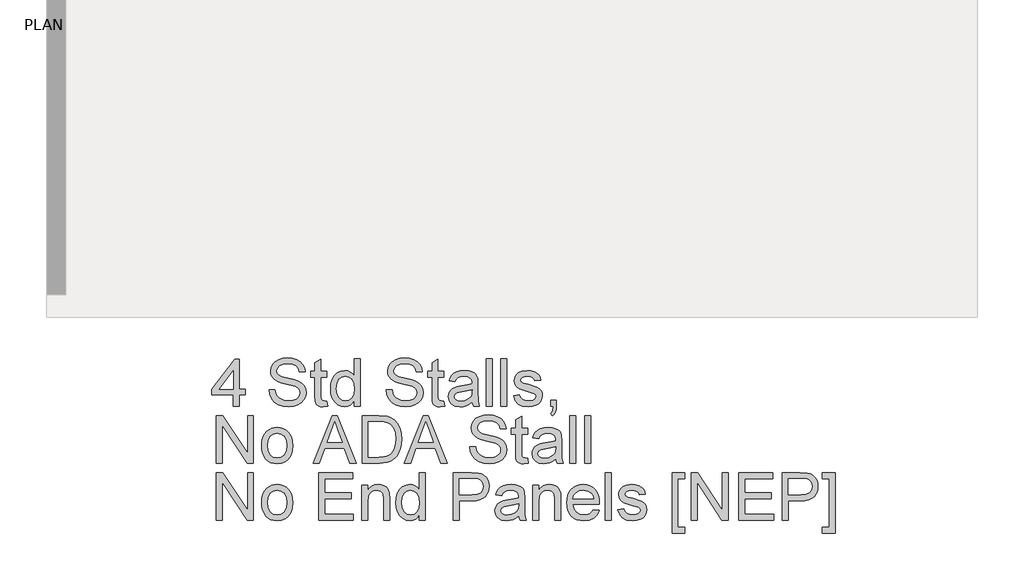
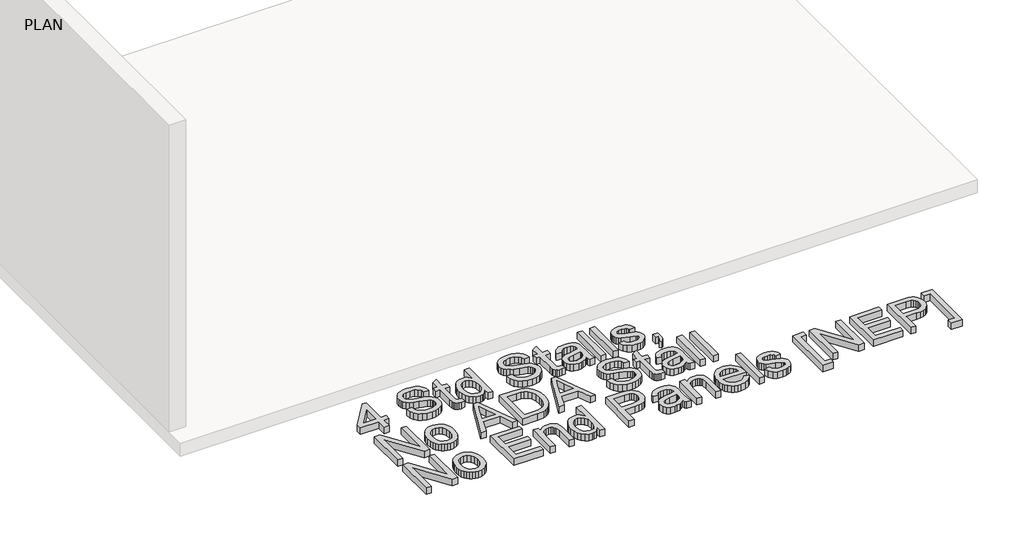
# One storey, part 7 of 21: 1 proxy.
"""IFC4 building model written with IfcOpenShell, lengths in millimetres."""

from ifc_helpers import new_model, si_unit, origin, origin_with_axes, place, context, project, spatial, polyline, outline, extrude, element, save

model = new_model("IFC4")

# Units and contexts
model_context = context("Model", 3, world=origin())
ifc_project = project(units=[si_unit("LENGTHUNIT", "METRE", prefix="MILLI")], contexts=[model_context])

# Site, building, storey
site = spatial("IfcSite", under=ifc_project)
building = spatial("IfcBuilding", under=site)
storey = spatial("IfcBuildingStorey", under=building, Name="PLAN", Elevation=0.0)

# Proxy
placement = place(None, origin())
element("IfcBuildingElementProxy", 1, Name="12\" Arial", ObjectType="12\" Arial", at=placement, inside=storey, context=model_context, shape_type="SweptSolid", body=[
    extrude(outline(polyline([(9809.5075559, -4821.3604361), (9809.5075559, -4749.9775235), (9671.5005914, -4749.9775235), (9671.5005914, -4711.9066367), (9819.0252776, -4521.5522029), (9847.5784427, -4521.5522029), (9847.5784427, -4711.9066367), (9885.6493294, -4711.9066367), (9885.6493294, -4749.9775235), (9847.5784427, -4749.9775235), (9847.5784427, -4821.3604361), (9809.5075559, -4821.3604361)]), holes=[polyline([(9809.5075559, -4711.9066367), (9809.5075559, -4594.2735452), (9718.3456279, -4711.9066367), (9809.5075559, -4711.9066367)])]), origin_with_axes(), (0.0, 0.0, 1.0), 50.8),
    extrude(outline(polyline([(10037.9328765, -4716.6654975), (10076.0037632, -4716.6654975), (10080.3722488, -4737.7922372), (10088.2727014, -4754.7735629), (10100.5974074, -4768.2508055), (10118.2386532, -4778.8652959), (10139.8022414, -4785.7526316), (10163.8939745, -4788.0484102), (10185.104366, -4786.3103106), (10203.6750768, -4781.0960119), (10218.7231153, -4772.8423627), (10229.3654897, -4761.9862114), (10235.6951464, -4749.5220856), (10237.805032, -4736.4445129), (10236.2249415, -4723.7015477), (10231.4846699, -4712.6873873), (10221.8554124, -4703.2904961), (10205.6083641, -4695.3993381), (10150.1750709, -4680.8625054), (10113.7865158, -4671.2425426), (10090.5034174, -4662.0873122), (10071.5516259, -4649.2792844), (10058.1208565, -4633.7572188), (10050.1181627, -4615.8557227), (10047.4505982, -4595.9094036), (10050.750199, -4573.611538), (10060.6490013, -4552.8194058), (10076.886755, -4535.1967492), (10099.2032099, -4522.4073107), (10125.9903914, -4514.6276886), (10155.6403252, -4512.0344812), (10187.7626359, -4514.748519), (10215.8696578, -4522.8906325), (10238.9575686, -4536.2935179), (10256.0225461, -4554.7898716), (10266.8229295, -4577.2271569), (10271.1170579, -4602.4528373), (10233.0461711, -4602.4528373), (10226.0565943, -4579.7367124), (10211.4825829, -4563.3409497), (10188.7106902, -4553.4142634), (10157.1274692, -4550.105368), (10124.8006762, -4553.3770848), (10102.6236411, -4563.1922353), (10089.797024, -4577.6361215), (10085.5214849, -4594.7940456), (10088.5515409, -4609.4238248), (10097.6417086, -4621.1908518), (10119.1309396, -4631.7123957), (10159.8043284, -4642.4570112), (10201.7789682, -4652.662537), (10227.1719523, -4661.5668118), (10248.8749602, -4675.3786618), (10264.0159452, -4692.4250501), (10272.9109253, -4712.5200836), (10275.8759187, -4735.4778693), (10272.4647821, -4758.9468608), (10262.2313724, -4781.0216547), (10245.5939487, -4800.0199195), (10222.9707704, -4814.2593235), (10195.7653296, -4823.1543036), (10165.3811185, -4826.119297), (10128.0816877, -4822.9219373), (10097.3814584, -4813.3298584), (10072.9272341, -4797.3058817), (10054.3658178, -4774.8128285), (10042.4500764, -4747.4122), (10037.9328765, -4716.6654975)])), origin_with_axes(), (0.0, 0.0, 1.0), 50.8),
    extrude(outline(polyline([(10409.1240224, -4789.6099114), (10413.8828832, -4822.4757941), (10385.4040754, -4826.119297), (10367.1307933, -4824.5392065), (10353.5048363, -4819.7989349), (10343.8755788, -4812.4933399), (10337.5923953, -4803.2172792), (10334.1347855, -4787.2862489), (10332.9822489, -4760.0157455), (10332.9822489, -4635.7648632), (10304.4290838, -4635.7648632), (10304.4290838, -4597.6939764), (10332.9822489, -4597.6939764), (10332.9822489, -4543.3388627), (10371.0531356, -4520.9573453), (10371.0531356, -4597.6939764), (10409.1240224, -4597.6939764), (10409.1240224, -4635.7648632), (10371.0531356, -4635.7648632), (10371.0531356, -4758.9003875), (10373.06078, -4778.5306885), (10379.5670351, -4785.4830868), (10392.5423666, -4788.0484102), (10409.1240224, -4789.6099114)])), origin_with_axes(), (0.0, 0.0, 1.0), 50.8),
    extrude(outline(polyline([(10585.2018736, -4821.3604361), (10585.2018736, -4785.4459082), (10573.81128, -4803.2405158), (10560.0133719, -4815.9509498), (10543.8081495, -4823.5772102), (10525.1956127, -4826.119297), (10500.5833792, -4822.4386155), (10478.0531474, -4811.3965712), (10458.9805254, -4793.76462), (10444.7411215, -4770.3142178), (10435.8740253, -4741.993419), (10432.9183266, -4709.7502779), (10435.6416591, -4677.9068067), (10443.8116565, -4649.1491593), (10457.4190242, -4625.1131942), (10476.4544676, -4607.4347697), (10499.4773159, -4596.5600291), (10525.0468983, -4592.9351156), (10543.673377, -4595.5283229), (10560.143497, -4603.3079451), (10574.1040614, -4615.2329811), (10585.2018736, -4630.2624303), (10585.2018736, -4516.7933421), (10623.2727604, -4516.7933421), (10623.2727604, -4821.3604361), (10585.2018736, -4821.3604361)]), holes=[polyline([(10470.9892134, -4709.6015635), (10475.2833417, -4744.038242), (10488.1657267, -4768.529645), (10506.885152, -4783.1687189), (10528.6904011, -4788.0484102), (10550.4863556, -4783.3917905), (10568.7317537, -4769.4219314), (10581.0843436, -4745.8785828), (10585.2018736, -4712.5014943), (10581.0099864, -4676.0106981), (10568.4343249, -4650.7106605), (10549.7241943, -4635.9321669), (10527.1288999, -4631.0060023), (10505.1005792, -4635.7369792), (10487.0503687, -4649.9299099), (10475.0045022, -4674.3097771), (10470.9892134, -4709.6015635)])]), origin_with_axes(), (0.0, 0.0, 1.0), 50.8),
    extrude(outline(polyline([(10789.83289, -4716.6654975), (10827.9037767, -4716.6654975), (10832.2722623, -4737.7922372), (10840.1727148, -4754.7735629), (10852.4974209, -4768.2508055), (10870.1386667, -4778.8652959), (10891.7022549, -4785.7526316), (10915.793988, -4788.0484102), (10937.0043795, -4786.3103106), (10955.5750903, -4781.0960119), (10970.6231288, -4772.8423627), (10981.2655032, -4761.9862114), (10987.5951599, -4749.5220856), (10989.7050454, -4736.4445129), (10988.1249549, -4723.7015477), (10983.3846834, -4712.6873873), (10973.7554259, -4703.2904961), (10957.5083775, -4695.3993381), (10902.0750844, -4680.8625054), (10865.6865293, -4671.2425426), (10842.4034309, -4662.0873122), (10823.4516393, -4649.2792844), (10810.02087, -4633.7572188), (10802.0181762, -4615.8557227), (10799.3506117, -4595.9094036), (10802.6502124, -4573.611538), (10812.5490148, -4552.8194058), (10828.7867685, -4535.1967492), (10851.1032233, -4522.4073107), (10877.8904049, -4514.6276886), (10907.5403387, -4512.0344812), (10939.6626494, -4514.748519), (10967.7696712, -4522.8906325), (10990.8575821, -4536.2935179), (11007.9225596, -4554.7898716), (11018.722943, -4577.2271569), (11023.0170714, -4602.4528373), (10984.9461846, -4602.4528373), (10977.9566077, -4579.7367124), (10963.3825964, -4563.3409497), (10940.6107037, -4553.4142634), (10909.0274827, -4550.105368), (10876.7006897, -4553.3770848), (10854.5236546, -4563.1922353), (10841.6970375, -4577.6361215), (10837.4214984, -4594.7940456), (10840.4515543, -4609.4238248), (10849.5417221, -4621.1908518), (10871.0309531, -4631.7123957), (10911.7043419, -4642.4570112), (10953.6789817, -4652.662537), (10979.0719657, -4661.5668118), (11000.7749737, -4675.3786618), (11015.9159587, -4692.4250501), (11024.8109388, -4712.5200836), (11027.7759322, -4735.4778693), (11024.3647956, -4758.9468608), (11014.1313859, -4781.0216547), (10997.4939622, -4800.0199195), (10974.8707839, -4814.2593235), (10947.6653431, -4823.1543036), (10917.281132, -4826.119297), (10879.9817012, -4822.9219373), (10849.2814719, -4813.3298584), (10824.8272475, -4797.3058817), (10806.2658313, -4774.8128285), (10794.3500899, -4747.4122), (10789.83289, -4716.6654975)])), origin_with_axes(), (0.0, 0.0, 1.0), 50.8),
    extrude(outline(polyline([(11161.0240359, -4789.6099114), (11165.7828967, -4822.4757941), (11137.3040888, -4826.119297), (11119.0308068, -4824.5392065), (11105.4048497, -4819.7989349), (11095.7755922, -4812.4933399), (11089.4924088, -4803.2172792), (11086.034799, -4787.2862489), (11084.8822623, -4760.0157455), (11084.8822623, -4635.7648632), (11056.3290973, -4635.7648632), (11056.3290973, -4597.6939764), (11084.8822623, -4597.6939764), (11084.8822623, -4543.3388627), (11122.9531491, -4520.9573453), (11122.9531491, -4597.6939764), (11161.0240359, -4597.6939764), (11161.0240359, -4635.7648632), (11122.9531491, -4635.7648632), (11122.9531491, -4758.9003875), (11124.9607935, -4778.5306885), (11131.4670486, -4785.4830868), (11144.4423801, -4788.0484102), (11161.0240359, -4789.6099114)])), origin_with_axes(), (0.0, 0.0, 1.0), 50.8),
    extrude(outline(polyline([(11341.860748, -4792.8072711), (11323.6711177, -4808.4036939), (11304.9423978, -4818.6092197), (11285.2470343, -4824.2417776), (11264.1574732, -4826.119297), (11232.341886, -4821.602097), (11208.8728945, -4808.0504972), (11194.4011243, -4787.4721419), (11189.5772009, -4761.8746756), (11191.3989523, -4746.0923597), (11196.8642066, -4731.7600093), (11205.2944542, -4719.4910712), (11216.0111858, -4709.8989923), (11242.6682422, -4697.4069826), (11275.6084821, -4691.6814781), (11314.5344767, -4685.6585448), (11341.6376764, -4678.5946108), (11341.860748, -4670.1178899), (11339.2396566, -4653.1272695), (11331.3763827, -4642.010868), (11313.7909047, -4633.7572188), (11289.2902071, -4631.0060023), (11266.6112609, -4632.8370484), (11250.7731771, -4638.3301866), (11239.9727937, -4648.4892391), (11232.4069485, -4664.3180282), (11194.3360618, -4659.5591674), (11200.944558, -4638.7391512), (11210.8061817, -4622.380567), (11224.8411034, -4609.869968), (11243.9694932, -4600.5939072), (11267.3641275, -4594.8498135), (11294.1977823, -4592.9351156), (11319.9346684, -4594.6267419), (11340.3364253, -4599.7016208), (11355.7190712, -4607.3325286), (11366.3986242, -4616.6922412), (11373.4811476, -4628.2640806), (11378.0727047, -4642.5313684), (11379.9316347, -4675.8433944), (11379.9316347, -4723.2089312), (11381.8649219, -4789.3496612), (11389.4493564, -4821.3604361), (11351.3784697, -4821.3604361), (11345.2811792, -4808.1248544), (11341.860748, -4792.8072711)]), holes=[polyline([(11341.860748, -4716.6654975), (11280.4417002, -4728.339578), (11247.6873533, -4734.5112257), (11232.8530917, -4744.5494478), (11227.6480877, -4759.1978163), (11230.482956, -4770.5187001), (11238.9875608, -4779.7947609), (11252.9760092, -4785.9849979), (11272.2624081, -4788.0484102), (11292.7106383, -4785.7712209), (11310.7794381, -4778.9396531), (11325.4278066, -4768.8735471), (11335.6147431, -4756.8927431), (11340.131943, -4744.5494478), (11341.6376764, -4727.4472916), (11341.860748, -4716.6654975)])]), origin_with_axes(), (0.0, 0.0, 1.0), 50.8),
    extrude(outline(polyline([(11432.279104, -4821.3604361), (11432.279104, -4516.7933421), (11470.3499908, -4516.7933421), (11470.3499908, -4821.3604361), (11432.279104, -4821.3604361)])), origin_with_axes(), (0.0, 0.0, 1.0), 50.8),
    extrude(outline(polyline([(11527.4563209, -4821.3604361), (11527.4563209, -4516.7933421), (11565.5272077, -4516.7933421), (11565.5272077, -4821.3604361), (11527.4563209, -4821.3604361)])), origin_with_axes(), (0.0, 0.0, 1.0), 50.8),
    extrude(outline(polyline([(11608.3569553, -4754.7363843), (11646.427842, -4749.9775235), (11652.432186, -4766.2617504), (11664.0504986, -4778.2332597), (11681.3571371, -4785.5946226), (11704.4264586, -4788.0484102), (11727.2169406, -4785.7991049), (11743.2409173, -4779.0511889), (11752.7214604, -4769.273217), (11755.8816415, -4757.9337439), (11752.7028711, -4748.2301292), (11743.1665601, -4740.8315878), (11703.9803154, -4729.9754365), (11646.6509136, -4711.3489577), (11632.1419648, -4701.989245), (11621.6297156, -4689.5994765), (11615.244291, -4674.9696972), (11613.1158161, -4658.8899526), (11614.8260317, -4644.1393429), (11619.9566786, -4630.5226805), (11628.0430242, -4618.5790552), (11638.620336, -4608.8475565), (11662.8236048, -4597.5824406), (11695.5779517, -4592.9351156), (11720.3574888, -4594.8033402), (11741.9024877, -4600.4080142), (11759.2277155, -4609.2007532), (11771.3479392, -4620.6331728), (11779.3785169, -4635.5510862), (11784.4348065, -4654.8003066), (11746.3639198, -4659.5591674), (11741.5585857, -4647.5783634), (11732.0501586, -4638.5532582), (11717.7456922, -4632.8928163), (11698.5522397, -4631.0060023), (11676.6912227, -4632.8091644), (11662.1172114, -4638.2186508), (11653.91933, -4646.0261569), (11651.1867029, -4655.0233782), (11655.7224921, -4666.1026011), (11669.9247175, -4674.5049647), (11702.716243, -4682.6098996), (11758.5956793, -4700.529985), (11773.3555836, -4709.0996524), (11784.5463423, -4720.8295008), (11791.6009817, -4735.7567088), (11793.9525282, -4753.9184551), (11791.1920171, -4772.6936483), (11782.9104839, -4790.3534834), (11769.4239466, -4805.5130577), (11751.0484234, -4816.7874683), (11728.852799, -4823.7863398), (11703.9059582, -4826.119297), (11665.5190533, -4821.6206863), (11637.5049779, -4808.1248544), (11618.804142, -4785.7805156), (11608.3569553, -4754.7363843)])), origin_with_axes(), (0.0, 0.0, 1.0), 50.8),
    extrude(outline(polyline([(11846.2999975, -4821.3604361), (11846.2999975, -4783.2895494), (11884.3708843, -4783.2895494), (11884.3708843, -4821.3604361), (11882.6606687, -4843.1378013), (11877.5300218, -4860.2864307), (11868.6815149, -4873.4383606), (11855.8177192, -4883.2256271), (11846.2999975, -4868.9490446), (11854.5536468, -4862.0524142), (11860.2791512, -4852.5161032), (11865.2610837, -4821.3604361), (11846.2999975, -4821.3604361)])), origin_with_axes(), (0.0, 0.0, 1.0), 50.8),
    extrude(outline(polyline([(9700.0537565, -5187.4131005), (9700.0537565, -4882.8460064), (9740.8015025, -4882.8460064), (9899.925912, -5124.1351227), (9899.925912, -4882.8460064), (9937.9967987, -4882.8460064), (9937.9967987, -5187.4131005), (9897.2490528, -5187.4131005), (9738.1246433, -4946.049627), (9738.1246433, -5187.4131005), (9700.0537565, -5187.4131005)])), origin_with_axes(), (0.0, 0.0, 1.0), 50.8),
    extrude(outline(polyline([(9990.344268, -5075.5798706), (9992.403033, -5046.6130936), (9998.579328, -5021.6523108), (10008.873153, -5000.6975222), (10023.2845079, -4983.7487277), (10037.7934567, -4972.9158131), (10053.8081388, -4965.1780169), (10071.3285542, -4960.5353392), (10090.354703, -4958.9877799), (10111.3582885, -4960.8722702), (10130.3495823, -4966.5257411), (10147.3285844, -4975.9481927), (10162.2952947, -4989.1396248), (10174.5107885, -5005.6538943), (10183.2361413, -5025.0448581), (10188.471353, -5047.312516), (10190.2164235, -5072.4568682), (10187.1305997, -5110.9181302), (10177.8731282, -5140.196278), (10162.7135539, -5162.1223576), (10141.9214217, -5178.527415), (10117.2255364, -5188.7608247), (10090.354703, -5192.1719613), (10069.044394, -5190.294442), (10049.8765018, -5184.661884), (10032.8510265, -5175.2742874), (10017.9679681, -5162.1316522), (10005.8825993, -5145.45705), (9997.2501931, -5125.4735523), (9992.0707493, -5102.1811592), (9990.344268, -5075.5798706)]), holes=[polyline([(10028.4151548, -5075.5055134), (10032.8208189, -5109.9607813), (10046.0378114, -5134.5079522), (10065.9283625, -5149.202794), (10090.354703, -5154.1010745), (10114.6695076, -5149.17491), (10134.5228802, -5134.3964164), (10147.7398726, -5109.5239327), (10152.1455368, -5074.3157982), (10147.7119887, -5040.8643525), (10134.4113444, -5016.6517891), (10114.5300879, -5001.9569473), (10090.354703, -4997.0586667), (10065.9283625, -5001.938358), (10046.0378114, -5016.5774319), (10032.8208189, -5041.0688348), (10028.4151548, -5075.5055134)])]), origin_with_axes(), (0.0, 0.0, 1.0), 50.8),
    extrude(outline(polyline([(10321.3081684, -5187.4131005), (10442.8821915, -4882.8460064), (10475.301931, -4882.8460064), (10596.8759541, -5187.4131005), (10556.6487086, -5187.4131005), (10521.7751814, -5092.2358836), (10396.3345839, -5092.2358836), (10361.5354139, -5187.4131005), (10321.3081684, -5187.4131005)]), holes=[polyline([(10410.3137376, -5054.1649968), (10507.8703849, -5054.1649968), (10480.4325779, -4979.2872957), (10459.0920613, -4920.9168932), (10440.1309751, -4972.743862), (10410.3137376, -5054.1649968)])]), origin_with_axes(), (0.0, 0.0, 1.0), 50.8),
    extrude(outline(polyline([(10637.5493429, -5187.4131005), (10637.5493429, -4882.8460064), (10742.6160675, -4882.8460064), (10796.9711812, -4887.2330812), (10821.2488073, -4895.6912128), (10841.7342161, -4909.019741), (10862.7958932, -4932.2191877), (10877.7974584, -4961.0697815), (10886.7760904, -4995.0138436), (10889.7689677, -5033.493695), (10887.742734, -5066.1829794), (10881.6640328, -5094.9499214), (10872.4065613, -5119.4413244), (10860.8440166, -5139.3039916), (10847.5340777, -5154.9840663), (10833.0344236, -5166.9276917), (10816.3877053, -5175.7854932), (10796.6365738, -5182.2080964), (10747.6723572, -5187.4131005), (10637.5493429, -5187.4131005)]), holes=[polyline([(10675.6202297, -5149.3422137), (10742.9878535, -5149.3422137), (10770.8532145, -5147.9666055), (10791.9892488, -5143.8397809), (10807.9388683, -5137.2034007), (10820.2449851, -5128.2991259), (10833.4712721, -5111.8197113), (10843.4072531, -5090.4884893), (10849.625374, -5064.2125136), (10851.6980809, -5032.8988374), (10847.6363189, -4991.4075194), (10835.4510326, -4960.7723527), (10817.4472954, -4939.7292649), (10795.9301804, -4927.0141836), (10774.0319848, -4922.4412158), (10741.9468527, -4920.9168932), (10675.6202297, -4920.9168932), (10675.6202297, -5149.3422137)])]), origin_with_axes(), (0.0, 0.0, 1.0), 50.8),
    extrude(outline(polyline([(10906.6480523, -5187.4131005), (11028.2220754, -4882.8460064), (11060.6418149, -4882.8460064), (11182.2158381, -5187.4131005), (11141.9885925, -5187.4131005), (11107.1150654, -5092.2358836), (10981.6744678, -5092.2358836), (10946.8752978, -5187.4131005), (10906.6480523, -5187.4131005)]), holes=[polyline([(10995.6536215, -5054.1649968), (11093.2102688, -5054.1649968), (11065.7724618, -4979.2872957), (11044.4319452, -4920.9168932), (11025.470859, -4972.743862), (10995.6536215, -5054.1649968)])]), origin_with_axes(), (0.0, 0.0, 1.0), 50.8),
    extrude(outline(polyline([(11327.5841654, -5082.7181619), (11365.6550522, -5082.7181619), (11370.0235377, -5103.8449015), (11377.9239903, -5120.8262272), (11390.2486963, -5134.3034699), (11407.8899422, -5144.9179603), (11429.4535304, -5151.805296), (11453.5452634, -5154.1010745), (11474.7556549, -5152.362975), (11493.3263658, -5147.1486763), (11508.3744043, -5138.895027), (11519.0167786, -5128.0388757), (11525.3464353, -5115.5747499), (11527.4563209, -5102.4971773), (11525.8762304, -5089.754212), (11521.1359589, -5078.7400516), (11511.5067014, -5069.3431604), (11495.259653, -5061.4520025), (11439.8263599, -5046.9151697), (11403.4378048, -5037.2952069), (11380.1547063, -5028.1399766), (11361.2029148, -5015.3319487), (11347.7721454, -4999.8098831), (11339.7694517, -4981.908387), (11337.1018871, -4961.9620679), (11340.4014879, -4939.6642024), (11350.3002902, -4918.8720701), (11366.5380439, -4901.2494136), (11388.8544988, -4888.459975), (11415.6416804, -4880.6803529), (11445.2916141, -4878.0871455), (11477.4139248, -4880.8011834), (11505.5209467, -4888.9432969), (11528.6088575, -4902.3461823), (11545.6738351, -4920.842536), (11556.4742185, -4943.2798213), (11560.7683468, -4968.5055016), (11522.6974601, -4968.5055016), (11515.7078832, -4945.7893768), (11501.1338719, -4929.393614), (11478.3619791, -4919.4669277), (11446.7787582, -4916.1580323), (11414.4519651, -4919.4297491), (11392.27493, -4929.2448996), (11379.4483129, -4943.6887859), (11375.1727739, -4960.8467099), (11378.2028298, -4975.4764892), (11387.2929976, -4987.2435162), (11408.7822286, -4997.7650601), (11449.4556174, -5008.5096756), (11491.4302572, -5018.7152014), (11516.8232412, -5027.6194762), (11538.5262492, -5041.4313262), (11553.6672342, -5058.4777144), (11562.5622143, -5078.5727479), (11565.5272077, -5101.5305337), (11562.1160711, -5124.9995251), (11551.8826613, -5147.0743191), (11535.2452377, -5166.0725839), (11512.6220594, -5180.3119878), (11485.4166186, -5189.2069679), (11455.0324074, -5192.1719613), (11417.7329766, -5188.9746017), (11387.0327474, -5179.3825228), (11362.578523, -5163.358546), (11344.0171068, -5140.8654928), (11332.1013654, -5113.4648644), (11327.5841654, -5082.7181619)])), origin_with_axes(), (0.0, 0.0, 1.0), 50.8),
    extrude(outline(polyline([(11698.7753113, -5155.6625758), (11703.5341722, -5188.5284585), (11675.0553643, -5192.1719613), (11656.7820822, -5190.5918708), (11643.1561252, -5185.8515992), (11633.5268677, -5178.5460043), (11627.2436843, -5169.2699435), (11623.7860744, -5153.3389132), (11622.6335378, -5126.0684099), (11622.6335378, -5001.8175275), (11594.0803727, -5001.8175275), (11594.0803727, -4963.7466408), (11622.6335378, -4963.7466408), (11622.6335378, -4909.391527), (11660.7044246, -4887.0100096), (11660.7044246, -4963.7466408), (11698.7753113, -4963.7466408), (11698.7753113, -5001.8175275), (11660.7044246, -5001.8175275), (11660.7044246, -5124.9530519), (11662.712069, -5144.5833529), (11669.218324, -5151.5357511), (11682.1936556, -5154.1010745), (11698.7753113, -5155.6625758)])), origin_with_axes(), (0.0, 0.0, 1.0), 50.8),
    extrude(outline(polyline([(11879.6120234, -5158.8599354), (11861.4223932, -5174.4563582), (11842.6936733, -5184.661884), (11822.9983097, -5190.294442), (11801.9087487, -5192.1719613), (11770.0931614, -5187.6547614), (11746.62417, -5174.1031615), (11732.1523998, -5153.5248062), (11727.3284764, -5127.9273399), (11729.1502278, -5112.1450241), (11734.6154821, -5097.8126736), (11743.0457297, -5085.5437355), (11753.7624612, -5075.9516566), (11780.4195177, -5063.4596469), (11813.3597576, -5057.7341424), (11852.2857522, -5051.7112092), (11879.3889518, -5044.6472751), (11879.6120234, -5036.1705542), (11876.9909321, -5019.1799339), (11869.1276581, -5008.0635324), (11851.5421802, -4999.8098831), (11827.0414825, -4997.0586667), (11804.3625363, -4998.8897127), (11788.5244526, -5004.3828509), (11777.7240692, -5014.5419035), (11770.158224, -5030.3706926), (11732.0873372, -5025.6118317), (11738.6958335, -5004.7918155), (11748.5574572, -4988.4332314), (11762.5923788, -4975.9226324), (11781.7207687, -4966.6465716), (11805.115403, -4960.9024778), (11831.9490578, -4958.9877799), (11857.6859439, -4960.6794062), (11878.0877008, -4965.7542852), (11893.4703467, -4973.3851929), (11904.1498997, -4982.7449055), (11911.232423, -4994.3167449), (11915.8239802, -5008.5840328), (11917.6829102, -5041.8960587), (11917.6829102, -5089.2615955), (11919.6161974, -5155.4023256), (11927.2006319, -5187.4131005), (11889.1297451, -5187.4131005), (11883.0324547, -5174.1775187), (11879.6120234, -5158.8599354)]), holes=[polyline([(11879.6120234, -5082.7181619), (11818.1929757, -5094.3922424), (11785.4386287, -5100.56389), (11770.6043672, -5110.6021121), (11765.3993632, -5125.2504807), (11768.2342314, -5136.5713645), (11776.7388363, -5145.8474253), (11790.7272846, -5152.0376622), (11810.0136836, -5154.1010745), (11830.4619138, -5151.8238853), (11848.5307135, -5144.9923175), (11863.1790821, -5134.9262114), (11873.3660186, -5122.9454075), (11877.8832185, -5110.6021121), (11879.3889518, -5093.499956), (11879.6120234, -5082.7181619)])]), origin_with_axes(), (0.0, 0.0, 1.0), 50.8),
    extrude(outline(polyline([(11970.0303795, -5187.4131005), (11970.0303795, -4882.8460064), (12008.1012662, -4882.8460064), (12008.1012662, -5187.4131005), (11970.0303795, -5187.4131005)])), origin_with_axes(), (0.0, 0.0, 1.0), 50.8),
    extrude(outline(polyline([(12065.2075964, -5187.4131005), (12065.2075964, -4882.8460064), (12103.2784831, -4882.8460064), (12103.2784831, -5187.4131005), (12065.2075964, -5187.4131005)])), origin_with_axes(), (0.0, 0.0, 1.0), 50.8),
    extrude(outline(polyline([(9700.0537565, -5553.4657648), (9700.0537565, -5248.8986707), (9740.8015025, -5248.8986707), (9899.925912, -5490.187787), (9899.925912, -5248.8986707), (9937.9967987, -5248.8986707), (9937.9967987, -5553.4657648), (9897.2490528, -5553.4657648), (9738.1246433, -5312.1022913), (9738.1246433, -5553.4657648), (9700.0537565, -5553.4657648)])), origin_with_axes(), (0.0, 0.0, 1.0), 50.8),
    extrude(outline(polyline([(9990.344268, -5441.6325349), (9992.403033, -5412.665758), (9998.579328, -5387.7049751), (10008.873153, -5366.7501865), (10023.2845079, -5349.8013921), (10037.7934567, -5338.9684774), (10053.8081388, -5331.2306812), (10071.3285542, -5326.5880035), (10090.354703, -5325.0404442), (10111.3582885, -5326.9249346), (10130.3495823, -5332.5784055), (10147.3285844, -5342.000857), (10162.2952947, -5355.1922891), (10174.5107885, -5371.7065587), (10183.2361413, -5391.0975224), (10188.471353, -5413.3651804), (10190.2164235, -5438.5095325), (10187.1305997, -5476.9707946), (10177.8731282, -5506.2489424), (10162.7135539, -5528.1750219), (10141.9214217, -5544.5800793), (10117.2255364, -5554.8134891), (10090.354703, -5558.2246256), (10069.044394, -5556.3471063), (10049.8765018, -5550.7145484), (10032.8510265, -5541.3269518), (10017.9679681, -5528.1843166), (10005.8825993, -5511.5097143), (9997.2501931, -5491.5262166), (9992.0707493, -5468.2338235), (9990.344268, -5441.6325349)]), holes=[polyline([(10028.4151548, -5441.5581777), (10032.8208189, -5476.0134456), (10046.0378114, -5500.5606165), (10065.9283625, -5515.2554583), (10090.354703, -5520.1537389), (10114.6695076, -5515.2275743), (10134.5228802, -5500.4490807), (10147.7398726, -5475.5765971), (10152.1455368, -5440.3684625), (10147.7119887, -5406.9170169), (10134.4113444, -5382.7044534), (10114.5300879, -5368.0096116), (10090.354703, -5363.111331), (10065.9283625, -5367.9910223), (10046.0378114, -5382.6300962), (10032.8208189, -5407.1214992), (10028.4151548, -5441.5581777)])]), origin_with_axes(), (0.0, 0.0, 1.0), 50.8),
    extrude(outline(polyline([(10356.7765531, -5553.4657648), (10356.7765531, -5248.8986707), (10575.6841519, -5248.8986707), (10575.6841519, -5286.9695575), (10394.8474398, -5286.9695575), (10394.8474398, -5377.3879135), (10566.1664303, -5377.3879135), (10566.1664303, -5415.4588003), (10394.8474398, -5415.4588003), (10394.8474398, -5515.394878), (10580.4430128, -5515.394878), (10580.4430128, -5553.4657648), (10356.7765531, -5553.4657648)])), origin_with_axes(), (0.0, 0.0, 1.0), 50.8),
    extrude(outline(polyline([(10632.7904821, -5553.4657648), (10632.7904821, -5329.7993051), (10670.8613688, -5329.7993051), (10670.8613688, -5361.0293294), (10684.0876559, -5345.2841921), (10699.9722129, -5334.0376655), (10718.5150398, -5327.2897496), (10739.7161367, -5325.0404442), (10758.4820352, -5326.852901), (10775.6678432, -5332.2902713), (10790.0001937, -5340.6740457), (10800.2057195, -5351.3257147), (10811.6195498, -5379.3212008), (10813.6271942, -5416.1280151), (10813.6271942, -5553.4657648), (10775.5563074, -5553.4657648), (10775.5563074, -5421.258662), (10771.1692326, -5387.57485), (10765.0998261, -5377.5459226), (10755.6657562, -5369.7663005), (10743.5734165, -5364.7750734), (10729.5292002, -5363.111331), (10707.2313346, -5366.8477803), (10688.2237752, -5378.0571283), (10680.6277224, -5387.2077114), (10675.2019704, -5399.7136631), (10670.8613688, -5434.7916725), (10670.8613688, -5553.4657648), (10632.7904821, -5553.4657648)])), origin_with_axes(), (0.0, 0.0, 1.0), 50.8),
    extrude(outline(polyline([(11003.981628, -5553.4657648), (11003.981628, -5517.5512369), (10992.5910343, -5535.3458445), (10978.7931262, -5548.0562785), (10962.5879038, -5555.6825388), (10943.975367, -5558.2246256), (10919.3631336, -5554.5439442), (10896.8329018, -5543.5018999), (10877.7602798, -5525.8699487), (10863.5208759, -5502.4195465), (10854.6537797, -5474.0987477), (10851.6980809, -5441.8556065), (10854.4214134, -5410.0121354), (10862.5914109, -5381.254488), (10876.1987786, -5357.2185229), (10895.234222, -5339.5400984), (10918.2570702, -5328.6653578), (10943.8266526, -5325.0404442), (10962.4531314, -5327.6336516), (10978.9232513, -5335.4132737), (10992.8838158, -5347.3383098), (11003.981628, -5362.367759), (11003.981628, -5248.8986707), (11042.0525147, -5248.8986707), (11042.0525147, -5553.4657648), (11003.981628, -5553.4657648)]), holes=[polyline([(10889.7689677, -5441.7068921), (10894.063096, -5476.1435707), (10906.9454811, -5500.6349737), (10925.6649063, -5515.2740476), (10947.4701554, -5520.1537389), (10969.2661099, -5515.4971192), (10987.511508, -5501.5272601), (10999.864098, -5477.9839114), (11003.981628, -5444.606823), (10999.7897408, -5408.1160267), (10987.2140792, -5382.8159892), (10968.5039486, -5368.0374956), (10945.9086542, -5363.111331), (10923.8803335, -5367.8423079), (10905.8301231, -5382.0352386), (10893.7842565, -5406.4151058), (10889.7689677, -5441.7068921)])]), origin_with_axes(), (0.0, 0.0, 1.0), 50.8),
    extrude(outline(polyline([(11222.8892268, -5553.4657648), (11222.8892268, -5248.8986707), (11335.7634575, -5248.8986707), (11381.2700643, -5251.7986016), (11401.5602855, -5257.2173826), (11418.2627717, -5266.0380055), (11431.7121304, -5278.6601403), (11442.2429689, -5295.483457), (11449.0466528, -5315.3275349), (11451.3145474, -5337.0119536), (11449.7832538, -5355.7081422), (11445.189373, -5372.9078922), (11437.532905, -5388.6112035), (11426.8138498, -5402.8180762), (11412.098095, -5414.5943978), (11392.4515284, -5423.0060562), (11367.8741499, -5428.0530512), (11338.3659595, -5429.7353828), (11260.9601136, -5429.7353828), (11260.9601136, -5553.4657648), (11222.8892268, -5553.4657648)]), holes=[polyline([(11260.9601136, -5391.6644961), (11340.5966756, -5391.6644961), (11374.3548447, -5388.1697076), (11396.6620049, -5377.6853423), (11409.0982467, -5360.8620257), (11413.2436606, -5338.3503832), (11410.7991677, -5321.248227), (11403.4656887, -5306.8229301), (11392.1540996, -5295.9667788), (11377.7752759, -5289.5720595), (11339.7043891, -5286.9695575), (11260.9601136, -5286.9695575), (11260.9601136, -5391.6644961)])]), origin_with_axes(), (0.0, 0.0, 1.0), 50.8),
    extrude(outline(polyline([(11641.6689812, -5524.9125997), (11623.479351, -5540.5090226), (11604.750631, -5550.7145484), (11585.0552675, -5556.3471063), (11563.9657065, -5558.2246256), (11532.1501192, -5553.7074257), (11508.6811277, -5540.1558259), (11494.2093575, -5519.5774706), (11489.3854342, -5493.9800042), (11491.2071856, -5478.1976884), (11496.6724398, -5463.865338), (11505.1026875, -5451.5963998), (11515.819419, -5442.004321), (11542.4764755, -5429.5123112), (11575.4167154, -5423.7868068), (11614.3427099, -5417.7638735), (11641.4459096, -5410.6999395), (11641.6689812, -5402.2232186), (11639.0478899, -5385.2325982), (11631.1846159, -5374.1161967), (11613.5991379, -5365.8625474), (11589.0984403, -5363.111331), (11566.4194941, -5364.9423771), (11550.5814103, -5370.4355153), (11539.7810269, -5380.5945678), (11532.2151818, -5396.4233569), (11494.144295, -5391.6644961), (11500.7527912, -5370.8444799), (11510.614415, -5354.4858957), (11524.6493366, -5341.9752967), (11543.7777265, -5332.6992359), (11567.1723607, -5326.9551422), (11594.0060155, -5325.0404442), (11619.7429016, -5326.7320706), (11640.1446586, -5331.8069495), (11655.5273045, -5339.4378572), (11666.2068574, -5348.7975699), (11673.2893808, -5360.3694092), (11677.8809379, -5374.6366971), (11679.7398679, -5407.948723), (11679.7398679, -5455.3142599), (11681.6731552, -5521.4549899), (11689.2575896, -5553.4657648), (11651.1867029, -5553.4657648), (11645.0894124, -5540.2301831), (11641.6689812, -5524.9125997)]), holes=[polyline([(11641.6689812, -5448.7708262), (11580.2499334, -5460.4449067), (11547.4955865, -5466.6165544), (11532.661325, -5476.6547765), (11527.4563209, -5491.303145), (11530.2911892, -5502.6240288), (11538.795794, -5511.9000896), (11552.7842424, -5518.0903266), (11572.0706413, -5520.1537389), (11592.5188715, -5517.8765496), (11610.5876713, -5511.0449818), (11625.2360398, -5500.9788758), (11635.4229763, -5488.9980718), (11639.9401763, -5476.6547765), (11641.4459096, -5459.5526203), (11641.6689812, -5448.7708262)])]), origin_with_axes(), (0.0, 0.0, 1.0), 50.8),
    extrude(outline(polyline([(11732.0873372, -5553.4657648), (11732.0873372, -5329.7993051), (11770.158224, -5329.7993051), (11770.158224, -5361.0293294), (11783.3845111, -5345.2841921), (11799.2690681, -5334.0376655), (11817.811895, -5327.2897496), (11839.0129918, -5325.0404442), (11857.7788904, -5326.852901), (11874.9646984, -5332.2902713), (11889.2970488, -5340.6740457), (11899.5025746, -5351.3257147), (11910.9164049, -5379.3212008), (11912.9240493, -5416.1280151), (11912.9240493, -5553.4657648), (11874.8531626, -5553.4657648), (11874.8531626, -5421.258662), (11870.4660877, -5387.57485), (11864.3966812, -5377.5459226), (11854.9626114, -5369.7663005), (11842.8702716, -5364.7750734), (11828.8260554, -5363.111331), (11806.5281898, -5366.8477803), (11787.5206304, -5378.0571283), (11779.9245776, -5387.2077114), (11774.4988256, -5399.7136631), (11770.158224, -5434.7916725), (11770.158224, -5553.4657648), (11732.0873372, -5553.4657648)])), origin_with_axes(), (0.0, 0.0, 1.0), 50.8),
    extrude(outline(polyline([(12121.8677833, -5486.841713), (12159.1950981, -5491.6005738), (12145.7457394, -5519.726185), (12124.2843923, -5540.7506835), (12095.2943787, -5553.8561401), (12059.2590203, -5558.2246256), (12035.6366671, -5556.3401353), (12014.588932, -5550.6866644), (11996.115815, -5541.2642129), (11980.217316, -5528.0727808), (11967.4325248, -5511.4795067), (11958.3005311, -5491.8515294), (11952.8213348, -5469.1888488), (11950.9949361, -5443.491465), (11952.8399241, -5416.9227077), (11958.3748883, -5393.5048368), (11967.5998285, -5373.2378523), (11980.5147448, -5356.1217541), (11996.3714178, -5342.5236811), (12014.4216283, -5332.8107717), (12034.6653762, -5326.9830261), (12057.1026615, -5325.0404442), (12078.8172878, -5326.9783788), (12098.4545597, -5332.7921824), (12116.0144774, -5342.4818551), (12131.4970408, -5356.0473969), (12144.1354413, -5373.1263165), (12153.1628702, -5393.3561224), (12158.5793275, -5416.7368147), (12160.3848133, -5443.2683934), (12160.1617417, -5453.5296871), (11989.0658229, -5453.5296871), (11995.6557298, -5482.0270842), (12010.9640185, -5502.9772255), (12033.0574017, -5515.8596105), (12060.0025923, -5520.1537389), (12080.2649295, -5518.1646838), (12097.3299071, -5512.1975184), (12111.197525, -5501.8804568), (12121.8677833, -5486.841713)]), holes=[polyline([(11989.0658229, -5415.4588003), (12122.3139265, -5415.4588003), (12117.1646904, -5395.3451775), (12107.0707004, -5380.9570592), (12084.875076, -5367.5727631), (12056.9539471, -5363.111331), (12031.2914182, -5366.671182), (12010.0717321, -5377.3507349), (11995.3211224, -5393.9974532), (11989.0658229, -5415.4588003)])]), origin_with_axes(), (0.0, 0.0, 1.0), 50.8),
    extrude(outline(polyline([(12198.4557, -5553.4657648), (12198.4557, -5248.8986707), (12236.5265868, -5248.8986707), (12236.5265868, -5553.4657648), (12198.4557, -5553.4657648)])), origin_with_axes(), (0.0, 0.0, 1.0), 50.8),
    extrude(outline(polyline([(12279.3563344, -5486.841713), (12317.4272212, -5482.0828521), (12323.4315651, -5498.3670791), (12335.0498777, -5510.3385884), (12352.3565162, -5517.6999513), (12375.4258377, -5520.1537389), (12398.2163197, -5517.9044336), (12414.2402965, -5511.1565176), (12423.7208396, -5501.3785457), (12426.8810206, -5490.0390726), (12423.7022503, -5480.3354579), (12414.1659393, -5472.9369164), (12374.9796945, -5462.0807651), (12317.6502928, -5443.4542864), (12303.141344, -5434.0945737), (12292.6290947, -5421.7048052), (12286.2436701, -5407.0750259), (12284.1151952, -5390.9952813), (12285.8254109, -5376.2446716), (12290.9560577, -5362.6280092), (12299.0424033, -5350.6843838), (12309.6197151, -5340.9528852), (12333.8229839, -5329.6877693), (12366.5773308, -5325.0404442), (12391.3568679, -5326.9086689), (12412.9018669, -5332.5133429), (12430.2270946, -5341.3060819), (12442.3473183, -5352.7385015), (12450.377896, -5367.6564149), (12455.4341857, -5386.9056352), (12417.3632989, -5391.6644961), (12412.5579648, -5379.6836921), (12403.0495378, -5370.6585869), (12388.7450713, -5364.998145), (12369.5516188, -5363.111331), (12347.6906018, -5364.9144931), (12333.1165905, -5370.3239795), (12324.9187091, -5378.1314855), (12322.186082, -5387.1287068), (12326.7218712, -5398.2079297), (12340.9240966, -5406.6102934), (12373.7156221, -5414.7152283), (12429.5950584, -5432.6353137), (12444.3549627, -5441.204981), (12455.5457215, -5452.9348295), (12462.6003609, -5467.8620375), (12464.9519073, -5486.0237838), (12462.1913963, -5504.7989769), (12453.909863, -5522.4588121), (12440.4233258, -5537.6183864), (12422.0478025, -5548.892797), (12399.8521781, -5555.8916685), (12374.9053373, -5558.2246256), (12336.5184324, -5553.726015), (12308.5043571, -5540.2301831), (12289.8035211, -5517.8858443), (12279.3563344, -5486.841713)])), origin_with_axes(), (0.0, 0.0, 1.0), 50.8),
    extrude(outline(polyline([(12626.7531761, -5639.12526), (12626.7531761, -5248.8986707), (12707.6538104, -5248.8986707), (12707.6538104, -5286.9695575), (12664.8240628, -5286.9695575), (12664.8240628, -5601.0543732), (12707.6538104, -5601.0543732), (12707.6538104, -5639.12526), (12626.7531761, -5639.12526)])), origin_with_axes(), (0.0, 0.0, 1.0), 50.8),
    extrude(outline(polyline([(12750.483558, -5553.4657648), (12750.483558, -5248.8986707), (12791.231304, -5248.8986707), (12950.3557135, -5490.187787), (12950.3557135, -5248.8986707), (12988.4266003, -5248.8986707), (12988.4266003, -5553.4657648), (12947.6788543, -5553.4657648), (12788.5544448, -5312.1022913), (12788.5544448, -5553.4657648), (12750.483558, -5553.4657648)])), origin_with_axes(), (0.0, 0.0, 1.0), 50.8),
    extrude(outline(polyline([(13055.0506521, -5553.4657648), (13055.0506521, -5248.8986707), (13273.958251, -5248.8986707), (13273.958251, -5286.9695575), (13093.1215389, -5286.9695575), (13093.1215389, -5377.3879135), (13264.4405293, -5377.3879135), (13264.4405293, -5415.4588003), (13093.1215389, -5415.4588003), (13093.1215389, -5515.394878), (13278.7171118, -5515.394878), (13278.7171118, -5553.4657648), (13055.0506521, -5553.4657648)])), origin_with_axes(), (0.0, 0.0, 1.0), 50.8),
    extrude(outline(polyline([(13335.8234419, -5553.4657648), (13335.8234419, -5248.8986707), (13448.6976726, -5248.8986707), (13494.2042794, -5251.7986016), (13514.4945006, -5257.2173826), (13531.1969868, -5266.0380055), (13544.6463455, -5278.6601403), (13555.177184, -5295.483457), (13561.9808679, -5315.3275349), (13564.2487625, -5337.0119536), (13562.7174689, -5355.7081422), (13558.1235881, -5372.9078922), (13550.4671201, -5388.6112035), (13539.7480649, -5402.8180762), (13525.0323101, -5414.5943978), (13505.3857435, -5423.0060562), (13480.808365, -5428.0530512), (13451.3001746, -5429.7353828), (13373.8943287, -5429.7353828), (13373.8943287, -5553.4657648), (13335.8234419, -5553.4657648)]), holes=[polyline([(13373.8943287, -5391.6644961), (13453.5308907, -5391.6644961), (13487.2890598, -5388.1697076), (13509.59622, -5377.6853423), (13522.0324618, -5360.8620257), (13526.1778757, -5338.3503832), (13523.7333828, -5321.248227), (13516.3999038, -5306.8229301), (13505.0883147, -5295.9667788), (13490.709491, -5289.5720595), (13452.6386042, -5286.9695575), (13373.8943287, -5286.9695575), (13373.8943287, -5391.6644961)])]), origin_with_axes(), (0.0, 0.0, 1.0), 50.8),
    extrude(outline(polyline([(13673.7025619, -5639.12526), (13592.8019276, -5639.12526), (13592.8019276, -5601.0543732), (13635.6316752, -5601.0543732), (13635.6316752, -5286.9695575), (13592.8019276, -5286.9695575), (13592.8019276, -5248.8986707), (13673.7025619, -5248.8986707), (13673.7025619, -5639.12526)])), origin_with_axes(), (0.0, 0.0, 1.0), 50.8),
])

save(model, "model.ifc")
